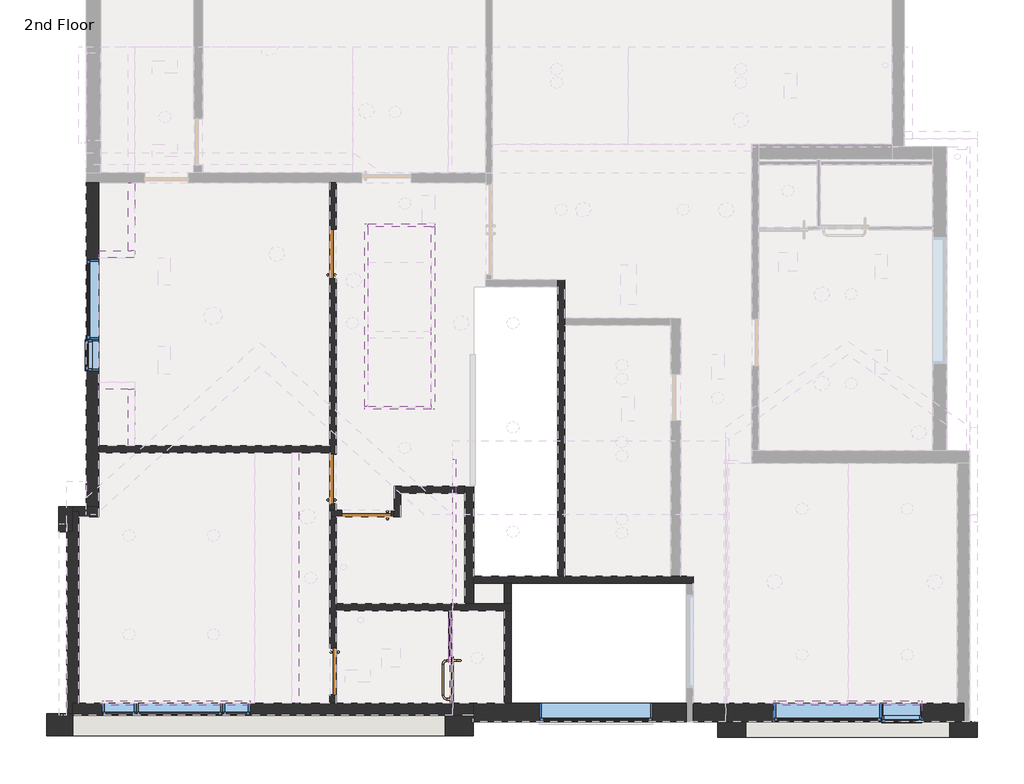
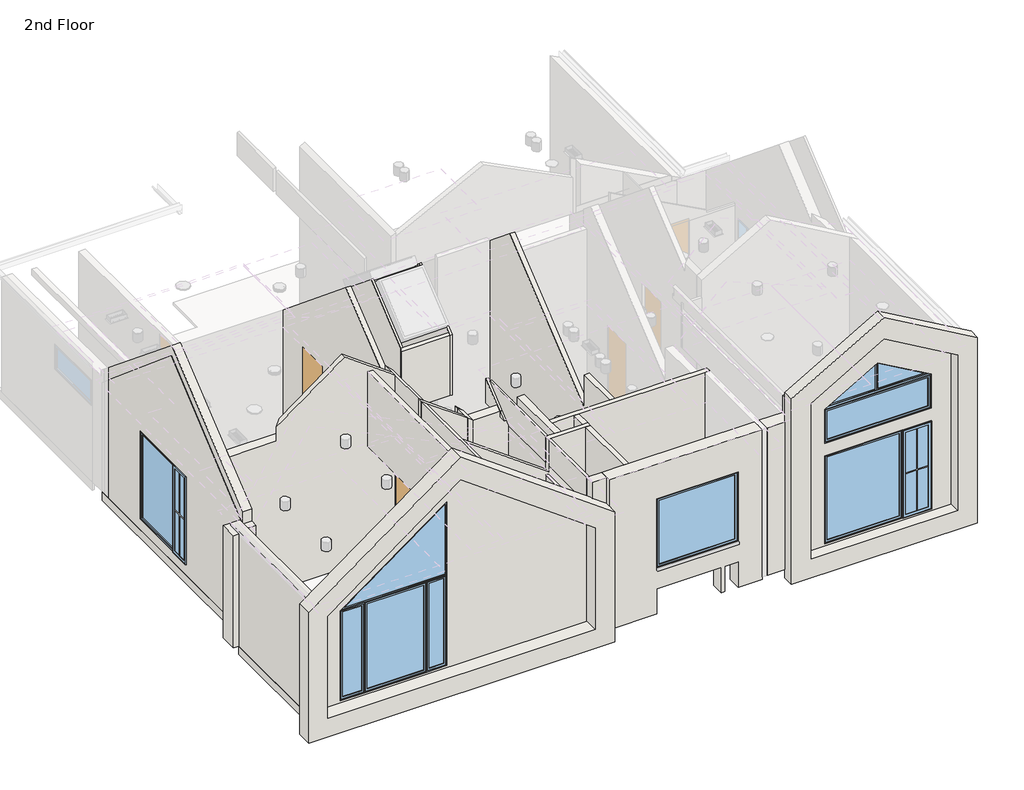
# One storey, part 1 of 6: 37 walls, 12 windows, 10 doors.
"""IFC4 building model written with IfcOpenShell, lengths in millimetres."""

from ifc_helpers import new_model, si_unit, frame, origin, place, context, project, spatial, polyline, outline, extrude, faceted_brep, transform, mapped, element, save
from components import door_1181abbb, door_c8a44f2a, door_70c034fc, door_ec2dc254, door_1882726e, door_11404014, default_1_2d5b841e, default_1_da3bdc25, default_1_ae3d604a, default_1_a06c236a, default_1_fb89efd3, default_1_84ce0bf7, default_1_c9a6c9ce, default_1_7f2328a8, default_1_1f2e066e, triangle_window_default_1_e67b248f, triangle_window_default_1_643964ed, triangle_window_default_1_2b364ab3

model = new_model("IFC4")

# Units and contexts
model_context = context("Model", 3, world=origin())
ifc_project = project(units=[si_unit("LENGTHUNIT", "METRE", prefix="MILLI")], contexts=[model_context])

# Site, building, storey
site = spatial("IfcSite", under=ifc_project)
building = spatial("IfcBuilding", under=site)
storey = spatial("IfcBuildingStorey", under=building, Name="2nd Floor", Elevation=3048.0)

# Doors
placement = place(None, origin())
door_shape = door_1181abbb(model_context)
element("IfcDoor", 1, ObjectType="Planitar - Swap_Flush Panel : Planitar - Swap_Flush Panel", at=placement, inside=storey, context=model_context, shape_type="MappedRepresentation", body=[
    mapped(door_shape, transform((11560.9549773, 3192.7909405, 3048.0), x_axis=(0.0, 1.0, 0.0), y_axis=(-1.0, 0.0, 0.0), z_axis=(0.0, 0.0, 1.0))),
])
element("IfcDoor", 2, ObjectType="Planitar - Swap_Flush Panel : Planitar - Swap_Flush Panel", at=placement, inside=storey, context=model_context, shape_type="MappedRepresentation", body=[
    mapped(door_shape, transform((12138.9173773, 2602.2409405, 3048.0), x_axis=(-1.0, 0.0, 0.0), y_axis=(0.0, -1.0, 0.0), z_axis=(0.0, 0.0, 1.0))),
])
element("IfcDoor", 3, ObjectType="Planitar - Swap_Flush Panel : Planitar - Swap_Flush Panel", at=placement, inside=storey, context=model_context, shape_type="MappedRepresentation", body=[
    mapped(door_shape, transform((11560.9549773, 6894.8409405, 3048.0), x_axis=(0.0, 1.0, 0.0), y_axis=(-1.0, 0.0, 0.0), z_axis=(0.0, 0.0, 1.0))),
])
door_2_shape = door_c8a44f2a(model_context)
element("IfcDoor", 4, ObjectType="Planitar - Swap_Flush Panel : Planitar - Swap_Flush Panel", at=placement, inside=storey, context=model_context, shape_type="MappedRepresentation", body=[
    mapped(door_2_shape, transform((11611.7549773, 30.4909405, 3048.0), x_axis=(0.0, -1.0, 0.0), y_axis=(1.0, 0.0, 0.0), z_axis=(0.0, 0.0, 1.0))),
])
door_3_shape = door_70c034fc(model_context)
element("IfcDoor", 5, ObjectType="Planitar - Swap_Full Glass_Panel_D2 : Planitar - Swap_Full Glass_Panel_D2", at=placement, inside=storey, context=model_context, shape_type="MappedRepresentation", body=[
    mapped(door_3_shape, transform((13542.2517773, -109.2090595, 3048.0), x_axis=(0.0, -1.0, 0.0), y_axis=(1.0, 0.0, 0.0), z_axis=(0.0, 0.0, 1.0))),
])
door_4_shape = door_ec2dc254(model_context)
element("IfcDoor", 6, ObjectType="Planitar - Single Door_Swapper : 9'0\" x 2'6\"", at=placement, inside=storey, context=model_context, shape_type="MappedRepresentation", body=[
    mapped(door_4_shape, transform((11586.3549773, 30.4909405, 3048.0), x_axis=(0.0, -1.0, 0.0), y_axis=(1.0, 0.0, 0.0), z_axis=(0.0, 0.0, 1.0))),
])
door_5_shape = door_1882726e(model_context)
element("IfcDoor", 7, ObjectType="Planitar - Single Door_Swapper : 9'0\" x 2'6\"", at=placement, inside=storey, context=model_context, shape_type="MappedRepresentation", body=[
    mapped(door_5_shape, transform((13516.8517773, -109.2090595, 3048.0), x_axis=(0.0, -1.0, 0.0), y_axis=(1.0, 0.0, 0.0), z_axis=(0.0, 0.0, 1.0))),
])
door_6_shape = door_11404014(model_context)
element("IfcDoor", 8, ObjectType="Planitar - Single Door_Swapper : 9'0\" x 2'8\"", at=placement, inside=storey, context=model_context, shape_type="MappedRepresentation", body=[
    mapped(door_6_shape, transform((11586.3549773, 3192.7909405, 3048.0), x_axis=(0.0, 1.0, 0.0), y_axis=(-1.0, 0.0, 0.0), z_axis=(0.0, 0.0, 1.0))),
])
element("IfcDoor", 9, ObjectType="Planitar - Single Door_Swapper : 9'0\" x 2'8\"", at=placement, inside=storey, context=model_context, shape_type="MappedRepresentation", body=[
    mapped(door_6_shape, transform((12138.9173773, 2627.6409405, 3048.0), x_axis=(-1.0, 0.0, 0.0), y_axis=(0.0, -1.0, 0.0), z_axis=(0.0, 0.0, 1.0))),
])
element("IfcDoor", 10, ObjectType="Planitar - Single Door_Swapper : 9'0\" x 2'8\"", at=placement, inside=storey, context=model_context, shape_type="MappedRepresentation", body=[
    mapped(door_6_shape, transform((11586.3549773, 6894.8409405, 3048.0), x_axis=(0.0, 1.0, 0.0), y_axis=(-1.0, 0.0, 0.0), z_axis=(0.0, 0.0, 1.0))),
])

# Walls
element("IfcWall", 11, ObjectType="Planitar - Generic 8\"", at=placement, inside=storey, context=model_context, shape_type="Brep", body=[
    faceted_brep([(7306.6871773, -693.4090595, 3048.0), (13891.5017773, -693.4090595, 3048.0), (13891.5017773, -693.4090595, 6000.6000346), (13891.5017773, -693.4090595, 6629.4), (13555.1550523, -693.4090595, 6629.4), (13555.1550523, -693.4090595, 6245.0111527), (13555.1550523, -693.4090595, 5835.65), (10380.1162773, -693.4090595, 8163.6847486), (7306.6871773, -693.4090595, 5910.1462022), (7306.6871773, -693.4090595, 5768.9000173), (7306.6871773, -693.4090595, 3302.0), (10227.7453773, -693.4090595, 3352.8), (7789.3453773, -693.4090595, 3352.8), (7789.3453773, -693.4090595, 5537.2), (10227.7453773, -693.4090595, 7325.1088519), (13891.5017773, -490.2090595, 3048.0), (11643.5049773, -490.2090595, 3048.0), (11529.2049773, -490.2090595, 3048.0), (7408.2871773, -490.2090595, 3048.0), (7306.6871773, -490.2090595, 3048.0), (7306.6871773, -490.2090595, 5843.9364361), (7306.6871773, -490.2090595, 5910.1462022), (10380.1211148, -490.2090595, 8163.6812016), (11529.2049773, -490.2090595, 7321.1380547), (11643.5049773, -490.2090595, 7237.3298273), (13555.1550523, -490.2090595, 5835.65), (13555.1550523, -490.2090595, 5993.1313686), (13555.1550523, -490.2090595, 6629.4), (13605.9550523, -490.2090595, 6629.4), (13891.5017773, -490.2090595, 6629.4), (7789.3453773, -490.2090595, 5537.2), (7789.3453773, -490.2090595, 3352.8), (10227.7453773, -490.2090595, 3352.8), (10227.7453773, -490.2090595, 7325.1088519), (7306.6871773, -668.0090595, 3048.0), (13891.5017773, -668.0090595, 3048.0), (13555.1550523, -668.0090595, 5835.65), (7306.6871773, -668.0090595, 5910.1462022), (10380.116882, -668.0090595, 8163.678098)], [[[0, 1, 2, 3, 4, 5, 6, 7, 8, 9, 10], [11, 12, 13, 14]], [[15, 16, 17, 18, 19, 20, 21, 22, 23, 24, 25, 26, 27, 28, 29], [30, 31, 32, 33]], [[1, 0, 34, 19, 18, 17, 16, 15, 35]], [[3, 2, 1, 35, 15, 29]], [[12, 31, 30, 13]], [[31, 12, 11, 32]], [[32, 11, 14, 33]], [[33, 14, 13, 30]], [[27, 26, 25, 36, 6, 5, 4]], [[21, 37, 8, 7, 38, 22]], [[6, 36, 25, 24, 23, 22, 38, 7]], [[4, 3, 29, 28, 27]], [[8, 37, 21, 20, 19, 34, 0, 10, 9]]]),
])
element("IfcWall", 12, ObjectType="Planitar - Generic 6\"", at=placement, inside=storey, context=model_context, shape_type="Brep", body=[
    faceted_brep([(13904.0081773, 1141.7409405, 3048.0), (13904.0081773, 1484.6409405, 3048.0), (13904.0081773, 1598.9409405, 3048.0), (13904.0081773, 3078.4909405, 3048.0), (13904.0081773, 3078.4909405, 6221.3609903), (13904.0081773, 2608.5909405, 5835.65), (13904.0081773, 2608.5909405, 6629.4), (13904.0081773, 1598.9409405, 6629.4), (13904.0081773, 1484.6409405, 6629.4), (13904.0081773, 1141.7409405, 6629.4), (13751.6081773, 1141.7409405, 3048.0), (13751.6081773, 1141.7409405, 6629.4), (13751.6081773, 2608.5909405, 6629.4), (13751.6081773, 2608.5909405, 5835.65), (13751.6081773, 2964.1909405, 6127.539398), (13751.6081773, 3078.4909405, 6221.3609903), (13751.6081773, 3078.4909405, 3048.0), (13751.6081773, 2964.1909405, 3048.0)], [[[0, 1, 2, 3, 4, 5, 6, 7, 8, 9]], [[10, 11, 12, 13, 14, 15, 16, 17]], [[3, 2, 1, 0, 10, 17, 16]], [[4, 3, 16, 15]], [[0, 9, 11, 10]], [[12, 6, 5, 13]], [[5, 4, 15, 14, 13]], [[9, 8, 7, 6, 12, 11]]]),
])
element("IfcWall", 13, ObjectType="Planitar - Generic 4 1/2\"", at=placement, inside=storey, context=model_context, shape_type="Brep", body=[
    faceted_brep([(13904.0081773, 1484.6409405, 3048.0), (14399.5017773, 1484.6409405, 3048.0), (14513.8017773, 1484.6409405, 3048.0), (17396.7017773, 1484.6409405, 3048.0), (17511.0017773, 1484.6409405, 3048.0), (17511.0017773, 1484.6409405, 6629.4), (17396.7017773, 1484.6409405, 6629.4), (14513.8017773, 1484.6409405, 6629.4), (14399.5017773, 1484.6409405, 6629.4), (13904.0081773, 1484.6409405, 6629.4), (13904.0081773, 1598.9409405, 3048.0), (13904.0081773, 1598.9409405, 6629.4), (15282.0549773, 1598.9409405, 6629.4), (15396.3549773, 1598.9409405, 6629.4), (17142.6049773, 1598.9409405, 6629.4), (17307.7049773, 1598.9409405, 6629.4), (17511.0017773, 1598.9409405, 6629.4), (17511.0017773, 1598.9409405, 3048.0), (17307.7049773, 1598.9409405, 3048.0), (17142.6049773, 1598.9409405, 3048.0)], [[[0, 1, 2, 3, 4, 5, 6, 7, 8, 9]], [[10, 11, 12, 13, 14, 15, 16, 17, 18, 19]], [[4, 3, 2, 1, 0, 10, 19, 18, 17]], [[5, 4, 17, 16]], [[0, 9, 11, 10]], [[9, 8, 7, 6, 5, 16, 15, 14, 13, 12, 11]]]),
])
element("IfcWall", 14, ObjectType="Planitar - Generic 4 1/2\"", at=placement, inside=storey, context=model_context, shape_type="Brep", body=[
    faceted_brep([(15282.0549773, 2608.5909405, 6629.4), (15282.0549773, 2608.5909405, 5835.65), (15282.0549773, 5565.4864039, 8262.7772128), (15282.0549773, 6469.3909405, 7521.2190287), (15282.0549773, 6469.3909405, 3048.0), (15282.0549773, 6469.3909405, 2997.2), (15282.0549773, 6469.3909405, 2807.5), (15282.0549773, 6469.3909405, 2755.9), (15282.0549773, 1598.9409405, 2755.9), (15282.0549773, 1598.9409405, 6629.4), (15396.3549773, 2608.5909405, 5835.65), (15396.3549773, 2608.5909405, 6629.4), (15396.3549773, 1598.9409405, 6629.4), (15396.3549773, 1598.9409405, 2755.9), (15396.3549773, 6469.3909405, 2755.9), (15396.3549773, 6469.3909405, 7521.2190287), (15396.3549773, 5565.4864039, 8262.7772128)], [[[0, 1, 2, 3, 4, 5, 6, 7, 8, 9]], [[10, 11, 12, 13, 14, 15, 16]], [[3, 15, 14, 7, 6, 5, 4]], [[12, 9, 8, 13]], [[8, 7, 14, 13]], [[11, 10, 1, 0]], [[9, 12, 11, 0]], [[1, 10, 16, 2]], [[15, 3, 2, 16]]]),
])
element("IfcWall", 15, ObjectType="Planitar - Generic 4 1/2\"", at=placement, inside=storey, context=model_context, shape_type="Brep", body=[
    faceted_brep([(13751.6081773, 3078.4909405, 3048.0), (12589.7673773, 3078.4909405, 3048.0), (12589.7673773, 3078.4909405, 6221.3609903), (13751.6081773, 3078.4909405, 6221.3609903), (13751.6081773, 2964.1909405, 3048.0), (13751.6081773, 2964.1909405, 6127.539398), (12704.0673773, 2964.1909405, 6127.539398), (12691.4986514, 2964.1909405, 6127.539398), (12691.4986514, 2964.1909405, 6468.9090733), (12589.7673773, 2964.1909405, 6543.5015296), (12589.7673773, 2964.1909405, 3048.0), (12704.0673773, 2964.1909405, 3048.0), (12589.7673773, 3055.6789729, 6543.5015296), (12589.7673773, 3055.6789729, 6202.6360986)], [[[0, 1, 2, 3]], [[4, 5, 6, 7, 8, 9, 10, 11]], [[1, 0, 4, 11, 10]], [[2, 1, 10, 9, 12, 13]], [[0, 3, 5, 4]], [[7, 13, 12, 8]], [[12, 9, 8]], [[3, 2, 13, 7, 6, 5]]]),
])
element("IfcWall", 16, ObjectType="Planitar - Generic 4 1/2\"", at=placement, inside=storey, context=model_context, shape_type="Brep", body=[
    faceted_brep([(12589.7673773, 2964.1909405, 3048.0), (12589.7673773, 2684.7909405, 3048.0), (12589.7673773, 2570.4909405, 3048.0), (12589.7673773, 2570.4909405, 6543.5015296), (12589.7673773, 2684.7909405, 6543.5015296), (12589.7673773, 2964.1909405, 6543.5015296), (12704.0673773, 2964.1909405, 3048.0), (12704.0673773, 2964.1909405, 6127.539398), (12704.0673773, 2952.8877497, 6118.2613284), (12704.0673773, 2952.8877497, 6459.6933021), (12704.0673773, 2570.4909405, 6459.6933021), (12704.0673773, 2570.4909405, 3048.0), (12691.4986514, 2964.1909405, 6468.9090733), (12691.4986514, 2964.1909405, 6127.539398)], [[[0, 1, 2, 3, 4, 5]], [[6, 7, 8, 9, 10, 11]], [[2, 1, 0, 6, 11]], [[0, 5, 12, 13, 7, 6]], [[3, 2, 11, 10]], [[5, 4, 3, 10, 9, 12]], [[8, 13, 12, 9]], [[8, 7, 13]]]),
])
element("IfcWall", 17, ObjectType="Planitar - Generic 4 1/2\"", at=placement, inside=storey, context=model_context, shape_type="Brep", body=[
    faceted_brep([(12589.7673773, 2684.7909405, 6543.5015296), (12589.7673773, 2684.7909405, 3048.0), (12545.3173773, 2684.7909405, 3048.0), (12545.3173773, 2684.7909405, 5791.2), (11732.5173773, 2684.7909405, 5791.2), (11732.5173773, 2684.7909405, 3048.0), (11643.5049773, 2684.7909405, 3048.0), (11529.2049773, 2684.7909405, 3048.0), (11529.2049773, 2684.7909405, 7321.1380547), (11643.5049773, 2684.7909405, 7237.3298273), (12589.7673773, 2570.4909405, 3048.0), (12589.7673773, 2570.4909405, 6543.5015296), (11643.5049773, 2570.4909405, 7237.3298273), (11529.2049773, 2570.4909405, 7321.1380547), (11529.2049773, 2570.4909405, 3048.0), (11643.5049773, 2570.4909405, 3048.0), (11732.5173773, 2570.4909405, 3048.0), (11732.5173773, 2570.4909405, 5791.2), (12545.3173773, 2570.4909405, 5791.2), (12545.3173773, 2570.4909405, 3048.0)], [[[0, 1, 2, 3, 4, 5, 6, 7, 8, 9]], [[10, 11, 12, 13, 14, 15, 16, 17, 18, 19]], [[1, 10, 19, 2]], [[14, 7, 6, 5, 16, 15]], [[1, 0, 11, 10]], [[8, 7, 14, 13]], [[0, 9, 8, 13, 12, 11]], [[4, 17, 16, 5]], [[17, 4, 3, 18]], [[18, 3, 2, 19]]]),
])
element("IfcWall", 18, ObjectType="Planitar - Generic 4 1/2\"", at=placement, inside=storey, context=model_context, shape_type="Brep", body=[
    faceted_brep([(11643.5049773, 2684.7909405, 7237.3298273), (11643.5049773, 2684.7909405, 3048.0), (11643.5049773, 2786.3909405, 3048.0), (11643.5049773, 2786.3909405, 5791.2), (11643.5049773, 3599.1909405, 5791.2), (11643.5049773, 3599.1909405, 3048.0), (11643.5049773, 6488.4409405, 3048.0), (11643.5049773, 6488.4409405, 5791.2), (11643.5049773, 7301.2409405, 5791.2), (11643.5049773, 7301.2409405, 3048.0), (11643.5049773, 8069.5909405, 3048.0), (11643.5049773, 8069.5909405, 6208.4239733), (11643.5049773, 5565.4864039, 8262.7772128), (11643.5049773, 3906.6629587, 6901.1546682), (11643.5049773, 3906.6629587, 7237.3298273), (11529.2049773, 2684.7909405, 3048.0), (11529.2049773, 2684.7909405, 7321.1380547), (11529.2049773, 3624.5909405, 7321.1380547), (11529.2049773, 3738.8909405, 7321.1380547), (11529.2049773, 4009.4541819, 7321.1380547), (11529.2049773, 4009.4541819, 6985.5294383), (11529.2049773, 5565.4864039, 8262.7772128), (11529.2049773, 8069.5909405, 6208.4239733), (11529.2049773, 8069.5909405, 3048.0), (11529.2049773, 7301.2409405, 3048.0), (11529.2049773, 7301.2409405, 5791.2), (11529.2049773, 6488.4409405, 5791.2), (11529.2049773, 6488.4409405, 3048.0), (11529.2049773, 3738.8909405, 3048.0), (11529.2049773, 3624.5909405, 3048.0), (11529.2049773, 3599.1909405, 3048.0), (11529.2049773, 3599.1909405, 5791.2), (11529.2049773, 2786.3909405, 5791.2), (11529.2049773, 2786.3909405, 3048.0)], [[[0, 1, 2, 3, 4, 5, 6, 7, 8, 9, 10, 11, 12, 13, 14]], [[15, 16, 17, 18, 19, 20, 21, 22, 23, 24, 25, 26, 27, 28, 29, 30, 31, 32, 33]], [[1, 15, 33, 2]], [[23, 10, 9, 24]], [[5, 30, 29, 28, 27, 6]], [[1, 0, 16, 15]], [[11, 10, 23, 22]], [[13, 20, 19, 14]], [[14, 19, 18, 17, 16, 0]], [[20, 13, 12, 21]], [[11, 22, 21, 12]], [[4, 31, 30, 5]], [[31, 4, 3, 32]], [[32, 3, 2, 33]], [[8, 25, 24, 9]], [[25, 8, 7, 26]], [[26, 7, 6, 27]]]),
])
element("IfcWall", 19, ObjectType="Planitar - Generic 4 1/2\"", at=placement, inside=storey, context=model_context, shape_type="Brep", body=[
    faceted_brep([(11529.2049773, 2570.4909405, 7321.1380547), (11529.2049773, 2570.4909405, 3048.0), (11529.2049773, 411.4909405, 3048.0), (11529.2049773, 411.4909405, 5791.2), (11529.2049773, -350.5090595, 5791.2), (11529.2049773, -350.5090595, 3048.0), (11529.2049773, -490.2090595, 3048.0), (11529.2049773, -490.2090595, 7321.1380547), (11643.5049773, 2570.4909405, 3048.0), (11643.5049773, 2570.4909405, 7237.3298273), (11643.5049773, 1141.7409405, 7237.3298273), (11643.5049773, 1027.4409405, 7237.3298273), (11643.5049773, -490.2090595, 7237.3298273), (11643.5049773, -490.2090595, 3048.0), (11643.5049773, -350.5090595, 3048.0), (11643.5049773, -350.5090595, 5791.2), (11643.5049773, 411.4909405, 5791.2), (11643.5049773, 411.4909405, 3048.0), (11643.5049773, 1027.4409405, 3048.0), (11643.5049773, 1141.7409405, 3048.0)], [[[0, 1, 2, 3, 4, 5, 6, 7]], [[8, 9, 10, 11, 12, 13, 14, 15, 16, 17, 18, 19]], [[1, 8, 19, 18, 17, 2]], [[13, 6, 5, 14]], [[1, 0, 9, 8]], [[7, 6, 13, 12]], [[0, 7, 12, 11, 10, 9]], [[4, 15, 14, 5]], [[15, 4, 3, 16]], [[16, 3, 2, 17]]]),
])
element("IfcWall", 20, ObjectType="Planitar - Generic 4 1/2\"", at=placement, inside=storey, context=model_context, shape_type="Brep", body=[
    faceted_brep([(11643.5049773, 1027.4409405, 3048.0), (13491.4517773, 1027.4409405, 3048.0), (13542.2517773, 1027.4409405, 3048.0), (14399.5017773, 1027.4409405, 3048.0), (14513.8017773, 1027.4409405, 3048.0), (14513.8017773, 1027.4409405, 6629.4), (14399.5017773, 1027.4409405, 6629.4), (13605.9550523, 1027.4409405, 6629.4), (13555.1550523, 1027.4409405, 6629.4), (13555.1550523, 1027.4409405, 5993.1313686), (13555.1550523, 1027.4409405, 5835.65), (11643.5049773, 1027.4409405, 7237.3298273), (11643.5049773, 1141.7409405, 3048.0), (11643.5049773, 1141.7409405, 7237.3298273), (13555.1550523, 1141.7409405, 5835.65), (13555.1550523, 1141.7409405, 5993.1313686), (13555.1550523, 1141.7409405, 6629.4), (13605.9550523, 1141.7409405, 6629.4), (13751.6081773, 1141.7409405, 6629.4), (13904.0081773, 1141.7409405, 6629.4), (14399.5017773, 1141.7409405, 6629.4), (14513.8017773, 1141.7409405, 6629.4), (14513.8017773, 1141.7409405, 3048.0), (14399.5017773, 1141.7409405, 3048.0), (13904.0081773, 1141.7409405, 3048.0), (13751.6081773, 1141.7409405, 3048.0)], [[[0, 1, 2, 3, 4, 5, 6, 7, 8, 9, 10, 11]], [[12, 13, 14, 15, 16, 17, 18, 19, 20, 21, 22, 23, 24, 25]], [[4, 3, 2, 1, 0, 12, 25, 24, 23, 22]], [[0, 11, 13, 12]], [[5, 4, 22, 21]], [[8, 7, 6, 5, 21, 20, 19, 18, 17, 16]], [[8, 16, 15, 14, 10, 9]], [[11, 10, 14, 13]]]),
])
element("IfcWall", 21, ObjectType="Planitar - Generic 4 1/2\"", at=placement, inside=storey, context=model_context, shape_type="SweptSolid", body=[
    extrude(outline(polyline([(14513.8017773, 1484.6409405), (14513.8017773, 1141.7409405), (14399.5017773, 1141.7409405), (14399.5017773, 1484.6409405), (14513.8017773, 1484.6409405)])), frame((0.0, 0.0, 3048.0), z_axis=(0.0, 0.0, 1.0), x_axis=(1.0, 0.0, 0.0)), (0.0, 0.0, 1.0), 3581.4),
])
element("IfcWall", 22, ObjectType="Planitar - Generic 4 1/2\"", at=placement, inside=storey, context=model_context, shape_type="SweptSolid", body=[
    extrude(outline(polyline([(14399.5017773, -490.2090595), (14399.5017773, 1027.4409405), (14513.8017773, 1027.4409405), (14513.8017773, -490.2090595), (14399.5017773, -490.2090595)])), frame((0.0, 0.0, 3048.0), z_axis=(0.0, 0.0, 1.0), x_axis=(1.0, 0.0, 0.0)), (0.0, 0.0, 1.0), 3581.4),
])
element("IfcWall", 23, ObjectType="Planitar - Generic 4 1/2\"", at=placement, inside=storey, context=model_context, shape_type="Brep", body=[
    faceted_brep([(11529.2049773, 3738.8909405, 3048.0), (7731.9049773, 3738.8909405, 3048.0), (7731.9049773, 3738.8909405, 6763.4413009), (8939.810198, 3738.8909405, 6763.4413009), (8939.810198, 3738.8909405, 7107.6015438), (10380.1211148, 3738.8909405, 8163.6812016), (11529.2049773, 3738.8909405, 7321.1380547), (11529.2049773, 3624.5909405, 3048.0), (11529.2049773, 3624.5909405, 7321.1380547), (10380.1211148, 3624.5909405, 8163.6812016), (8812.7128682, 3624.5909405, 7014.4099259), (8812.7128682, 3624.5909405, 6669.6197087), (7731.9049773, 3624.5909405, 6669.6197087), (7731.9049773, 3624.5909405, 3048.0)], [[[0, 1, 2, 3, 4, 5, 6]], [[7, 8, 9, 10, 11, 12, 13]], [[1, 0, 7, 13]], [[2, 1, 13, 12]], [[0, 6, 8, 7]], [[3, 11, 10, 4]], [[3, 2, 12, 11]], [[6, 5, 9, 8]], [[5, 4, 10, 9]]]),
])
element("IfcWall", 24, ObjectType="Planitar - Generic 6 1/2\"", at=placement, inside=storey, context=model_context, shape_type="Brep", body=[
    faceted_brep([(7731.9049773, 2735.5909405, 3048.0), (7528.7049773, 2735.5909405, 3048.0), (7306.6871773, 2735.5909405, 3048.0), (7306.6871773, 2735.5909405, 5649.1901862), (7731.9049773, 2735.5909405, 5649.1901862), (7731.9049773, 2570.4909405, 3048.0), (7731.9049773, 2570.4909405, 5649.1901862), (7408.2871773, 2570.4909405, 5649.1901862), (7408.2871773, 2570.4909405, 3048.0), (7408.2871773, 2653.0409405, 3048.0), (7306.6871773, 2653.0409405, 3048.0), (7306.6871773, 2653.0409405, 5649.1901862), (7408.2871773, 2653.0409405, 5649.1901862)], [[[0, 1, 2, 3, 4]], [[5, 6, 7, 8]], [[0, 4, 6, 5]], [[2, 1, 0, 5, 8, 9, 10]], [[3, 2, 10, 11]], [[4, 3, 11, 12, 7, 6]], [[12, 9, 8, 7]], [[9, 12, 11, 10]]]),
])
element("IfcWall", 25, ObjectType="Planitar - Generic 8\"", at=placement, inside=storey, context=model_context, shape_type="Brep", body=[
    faceted_brep([(7205.0871773, -668.0090595, 5843.9364361), (7205.0871773, 2653.0409405, 5843.9364361), (7205.0871773, 2653.0409405, 5770.6137562), (7205.0871773, 2329.1909405, 5770.6137562), (7205.0871773, 2329.1909405, 3048.0), (7205.0871773, -668.0090595, 3048.0), (7408.2871773, -490.2090595, 3048.0), (7408.2871773, 2570.4909405, 3048.0), (7408.2871773, 2653.0409405, 3048.0), (7408.2871773, 2653.0409405, 5649.1901862), (7408.2871773, 2653.0409405, 5843.9364361), (7408.2871773, -490.2090595, 5843.9364361), (7306.6871773, -490.2090595, 3048.0), (7306.6871773, -668.0090595, 3048.0), (7255.8871773, -668.0090595, 3048.0), (7255.8871773, 2329.1909405, 3048.0), (7306.6871773, 2329.1909405, 3048.0), (7306.6871773, 2653.0409405, 3048.0), (7306.6871773, -668.0090595, 5843.9364361), (7306.6871773, -490.2090595, 5843.9364361), (7306.6871773, 2653.0409405, 5649.1901862), (7306.6871773, 2653.0409405, 5770.6137562), (7306.6871773, 2329.1909405, 5770.6137562), (7306.6871773, -668.0090595, 3302.0), (7306.6871773, -668.0090595, 5768.9000173)], [[[0, 1, 2, 3, 4, 5]], [[6, 7, 8, 9, 10, 11]], [[8, 7, 6, 12, 13, 14, 5, 4, 15, 16, 17]], [[1, 0, 18, 19, 11, 10]], [[10, 9, 8, 17, 20, 21, 2, 1]], [[22, 16, 15, 4, 3]], [[22, 3, 2, 21]], [[16, 22, 21, 20, 17]], [[5, 14, 13, 23, 24, 18, 0]], [[13, 12, 19, 18, 24, 23]], [[12, 6, 11, 19]]]),
])
element("IfcWall", 26, ObjectType="Planitar - Generic 2\"", at=placement, inside=storey, context=model_context, shape_type="Brep", body=[
    faceted_brep([(13491.4517773, 1027.4409405, 3098.8), (13491.4517773, 1027.4409405, 3048.0), (13491.4517773, 271.7909405, 3048.0), (13491.4517773, 271.7909405, 3098.8), (13542.2517773, 1027.4409405, 3048.0), (13542.2517773, 1027.4409405, 3098.8), (13542.2517773, 271.7909405, 3098.8), (13542.2517773, 271.7909405, 3048.0), (13529.5517773, 1027.4409405, 3098.8), (13504.1517773, 1027.4409405, 3098.8), (13504.1517773, 271.7909405, 3098.8), (13529.5517773, 271.7909405, 3098.8)], [[[0, 1, 2, 3]], [[4, 5, 6, 7]], [[1, 4, 7, 2]], [[5, 8, 9, 0, 3, 10, 11, 6]], [[1, 0, 9, 8, 5, 4]], [[3, 2, 7, 6, 11, 10]]]),
])
element("IfcWall", 27, ObjectType="Planitar - Curtain wall (Curved)", at=placement, inside=storey, context=model_context, shape_type="SweptSolid", body=[
    extrude(outline(polyline([(13504.1517773, 1027.4409405), (13529.5517773, 1027.4409405), (13529.5517773, 271.7909405), (13504.1517773, 271.7909405), (13504.1517773, 1027.4409405)])), frame((0.0, 0.0, 3098.8), z_axis=(0.0, 0.0, 1.0), x_axis=(1.0, 0.0, 0.0)), (0.0, 0.0, 1.0), 2336.8),
])
element("IfcWall", 28, ObjectType="Planitar - Generic 1' - 0\"", at=placement, inside=storey, context=model_context, shape_type="Brep", body=[
    faceted_brep([(17511.0017773, -795.0090595, 3048.0), (21956.0017773, -795.0090595, 3048.0), (21956.0017773, -795.0090595, 7094.9091145), (20051.0078773, -795.0090595, 8194.7578555), (18044.4017773, -795.0090595, 7036.2503272), (18044.4017773, -795.0090595, 6629.4), (17511.0017773, -795.0090595, 6629.4), (18831.8139773, -795.0090595, 3352.8), (18831.8139773, -795.0090595, 5486.4), (21270.2017773, -795.0090595, 5486.4), (21270.2017773, -795.0090595, 3352.8), (20051.0078773, -795.0090595, 7315.2), (21270.2078773, -795.0090595, 6611.2945518), (21270.2017773, -795.0090595, 5791.2), (18831.8139773, -795.0090595, 5791.2), (18831.8139773, -795.0090595, 6611.2945518), (21956.0017773, -490.2090595, 3048.0), (21854.4017773, -490.2090595, 3048.0), (17511.0017773, -490.2090595, 3048.0), (17511.0017773, -490.2090595, 6629.4), (18044.4017773, -490.2090595, 6629.4), (18044.4017773, -490.2090595, 6756.4), (18044.4017773, -490.2090595, 7036.2503272), (18095.2017773, -490.2090595, 7065.5797209), (20051.0017773, -490.2090595, 8194.7613773), (21854.4017773, -490.2090595, 7153.5679019), (21956.0017773, -490.2090595, 7094.9091145), (18831.8139773, -490.2090595, 5486.4), (18831.8139773, -490.2090595, 3352.8), (21270.2017773, -490.2090595, 3352.8), (21270.2017773, -490.2090595, 5486.4), (21270.2078773, -490.2090595, 6611.2945518), (20051.0078773, -490.2090595, 7315.2), (18831.8078773, -490.2090595, 6611.2945518), (18831.8139773, -490.2090595, 5791.2), (21270.2017773, -490.2090595, 5791.2)], [[[0, 1, 2, 3, 4, 5, 6], [7, 8, 9, 10], [11, 12, 13, 14, 15]], [[16, 17, 18, 19, 20, 21, 22, 23, 24, 25, 26], [27, 28, 29, 30], [31, 32, 33, 34, 35]], [[1, 0, 18, 17, 16]], [[2, 1, 16, 26]], [[28, 7, 10, 29]], [[28, 27, 8, 7]], [[8, 27, 30, 9]], [[9, 30, 29, 10]], [[0, 6, 19, 18]], [[12, 11, 32, 31]], [[11, 15, 33, 32]], [[35, 13, 12, 31]], [[14, 34, 33, 15]], [[13, 35, 34, 14]], [[4, 3, 24, 23, 22]], [[2, 26, 25, 24, 3]], [[4, 22, 21, 20, 5]], [[6, 5, 20, 19]]]),
])
element("IfcWall", 29, ObjectType="Planitar - Generic 4 1/2\"", at=placement, inside=storey, context=model_context, shape_type="SweptSolid", body=[
    extrude(outline(polyline([(10907.0017773, -490.2090595), (10907.0017773, 3624.5909405), (11021.3017773, 3624.5909405), (11021.3017773, -490.2090595), (10907.0017773, -490.2090595)])), frame((0.0, 0.0, 5803.9), z_axis=(0.0, 0.0, 1.0), x_axis=(1.0, 0.0, 0.0)), (0.0, 0.0, 1.0), 1816.1),
])
element("IfcWall", 30, ObjectType="Planitar - Generic 4 1/2\"", at=placement, inside=storey, context=model_context, shape_type="Brep", body=[
    faceted_brep([(7731.9049773, 4672.3409405, 5651.5), (8214.6017773, 4672.3409405, 5651.5), (8328.9017773, 4672.3409405, 5651.5), (8328.9017773, 4672.3409405, 5791.2), (8214.6017773, 4672.3409405, 5791.2), (7731.9049773, 4672.3409405, 5791.2), (7731.9049773, 4786.6409405, 5651.5), (7731.9049773, 4786.6409405, 5791.2), (8328.9017773, 4786.6409405, 5791.2), (8328.9017773, 4786.6409405, 5651.5)], [[[0, 1, 2, 3, 4, 5]], [[6, 7, 8, 9]], [[2, 1, 0, 6, 9]], [[5, 4, 3, 8, 7]], [[0, 5, 7, 6]], [[3, 2, 9, 8]]]),
])
element("IfcWall", 31, ObjectType="Planitar - Generic 4 1/2\"", at=placement, inside=storey, context=model_context, shape_type="SweptSolid", body=[
    extrude(outline(polyline([(8214.6017773, 3738.8909405), (8214.6017773, 4672.3409405), (8328.9017773, 4672.3409405), (8328.9017773, 3738.8909405), (8214.6017773, 3738.8909405)])), frame((0.0, 0.0, 5651.5), z_axis=(0.0, 0.0, 1.0), x_axis=(1.0, 0.0, 0.0)), (0.0, 0.0, 1.0), 139.7),
])
element("IfcWall", 32, ObjectType="Planitar - Generic 4 1/2\"", at=placement, inside=storey, context=model_context, shape_type="Brep", body=[
    faceted_brep([(7731.9049773, 6837.6909405, 5651.5), (8328.9017773, 6837.6909405, 5651.5), (8328.9017773, 6837.6909405, 5791.2), (7731.9049773, 6837.6909405, 5791.2), (7731.9049773, 6951.9909405, 5651.5), (7731.9049773, 6951.9909405, 5791.2), (8214.6017773, 6951.9909405, 5791.2), (8328.9017773, 6951.9909405, 5791.2), (8328.9017773, 6951.9909405, 5651.5), (8214.6017773, 6951.9909405, 5651.5)], [[[0, 1, 2, 3]], [[4, 5, 6, 7, 8, 9]], [[1, 0, 4, 9, 8]], [[3, 2, 7, 6, 5]], [[0, 3, 5, 4]], [[2, 1, 8, 7]]]),
])
element("IfcWall", 33, ObjectType="Planitar - Generic 4 1/2\"", at=placement, inside=storey, context=model_context, shape_type="SweptSolid", body=[
    extrude(outline(polyline([(8328.9017773, 8069.5909405), (8328.9017773, 6951.9909405), (8214.6017773, 6951.9909405), (8214.6017773, 8069.5909405), (8328.9017773, 8069.5909405)])), frame((0.0, 0.0, 5651.5), z_axis=(0.0, 0.0, 1.0), x_axis=(1.0, 0.0, 0.0)), (0.0, 0.0, 1.0), 139.7),
])
element("IfcWall", 34, ObjectType="Planitar - Generic 2\"", at=placement, inside=storey, context=model_context, shape_type="Brep", body=[
    faceted_brep([(13491.4517773, 1027.4409405, 5486.4), (13491.4517773, 1027.4409405, 5435.6), (13491.4517773, 271.7909405, 5435.6), (13491.4517773, 271.7909405, 5486.4), (13542.2517773, 1027.4409405, 5435.6), (13542.2517773, 1027.4409405, 5486.4), (13542.2517773, 271.7909405, 5486.4), (13542.2517773, 271.7909405, 5435.6), (13504.1517773, 1027.4409405, 5435.6), (13529.5517773, 1027.4409405, 5435.6), (13529.5517773, 271.7909405, 5435.6), (13504.1517773, 271.7909405, 5435.6)], [[[0, 1, 2, 3]], [[4, 5, 6, 7]], [[1, 8, 9, 4, 7, 10, 11, 2]], [[5, 0, 3, 6]], [[1, 0, 5, 4, 9, 8]], [[3, 2, 11, 10, 7, 6]]]),
])
element("IfcWall", 35, ObjectType="Planitar - Generic 2\"", at=placement, inside=storey, context=model_context, shape_type="SweptSolid", body=[
    extrude(outline(polyline([(13542.0533398, 1027.4409405), (13542.0533398, 170.1909405), (13491.2533398, 170.1909405), (13491.2533398, 1027.4409405), (13542.0533398, 1027.4409405)])), frame((0.0, 0.0, 5486.4), z_axis=(0.0, 0.0, 1.0), x_axis=(1.0, 0.0, 0.0)), (0.0, 0.0, 1.0), 304.8),
])
element("IfcWall", 36, ObjectType="Planitar - Generic 8\"", at=placement, inside=storey, context=model_context, shape_type="Brep", body=[
    faceted_brep([(7528.7049773, 8069.5909405, 3048.0), (7528.7049773, 2735.5909405, 3048.0), (7528.7049773, 2735.5909405, 5628.6776341), (7528.7049773, 5565.4864039, 8015.9316754), (7528.7049773, 8069.5909405, 5903.5095904), (7528.7049773, 4977.1409405, 5435.6), (7528.7049773, 4977.1409405, 3302.0), (7528.7049773, 6805.9409405, 3302.0), (7528.7049773, 6805.9409405, 5435.6), (7731.9049773, 2735.5909405, 3048.0), (7731.9049773, 3624.5909405, 3048.0), (7731.9049773, 3738.8909405, 3048.0), (7731.9049773, 8069.5909405, 3048.0), (7731.9049773, 8069.5909405, 6208.4239733), (7731.9049773, 5565.4864039, 8262.7772128), (7731.9049773, 3738.8909405, 6763.4413009), (7731.9049773, 3624.5909405, 6669.6197087), (7731.9049773, 2735.5909405, 5939.8962136), (7731.9049773, 2735.5909405, 5649.1901862), (7731.9049773, 4977.1409405, 3302.0), (7731.9049773, 4977.1409405, 5435.6), (7731.9049773, 6805.9409405, 5435.6), (7731.9049773, 6805.9409405, 3302.0), (7579.5049773, 2735.5909405, 3048.0), (7535.2871773, 8069.5909405, 5903.5095904), (7535.2871773, 8069.5909405, 6208.4239733), (7535.2871773, 2735.5909405, 5939.8962136), (7535.2871773, 2735.5909405, 5770.6137562), (7535.2871773, 2735.5909405, 5628.6776341), (7535.2871773, 5565.4864039, 8262.7772128), (7535.2871773, 5565.4864039, 8015.9316754)], [[[0, 1, 2, 3, 4], [5, 6, 7, 8]], [[9, 10, 11, 12, 13, 14, 15, 16, 17, 18], [19, 20, 21, 22]], [[1, 0, 12, 11, 10, 9, 23]], [[13, 12, 0, 4, 24, 25]], [[1, 23, 9, 18, 17, 26, 27, 28, 2]], [[5, 20, 19, 6]], [[14, 13, 25, 29]], [[17, 16, 15, 14, 29, 26]], [[20, 5, 8, 21]], [[21, 8, 7, 22]], [[6, 19, 22, 7]], [[30, 28, 27, 26, 29, 25, 24]], [[28, 30, 3, 2]], [[30, 24, 4, 3]]]),
])
element("IfcWall", 37, ObjectType="Planitar - Generic 1' - 0\"", at=placement, inside=storey, context=model_context, shape_type="Brep", body=[
    faceted_brep([(13891.5017773, -490.2090595, 2997.2), (13891.5017773, -490.2090595, 3048.0), (13891.5017773, -490.2090595, 6629.4), (14399.5017773, -490.2090595, 6629.4), (14513.8017773, -490.2090595, 6629.4), (17396.7017773, -490.2090595, 6629.4), (17396.7017773, -490.2090595, 2997.2), (16844.2517773, -490.2090595, 2997.2), (16844.2517773, -490.2090595, 3606.8), (16539.4517773, -490.2090595, 3606.8), (16539.4517773, -490.2090595, 2997.2), (16459.0569509, -490.2090595, 2997.2), (16459.0569509, -490.2090595, 3606.8), (14985.8569509, -490.2090595, 3606.8), (14985.8569509, -490.2090595, 2997.2), (16844.2517773, -490.2090595, 4114.8), (16844.2517773, -490.2090595, 5791.2), (14977.3517773, -490.2090595, 5791.2), (14977.3517773, -490.2090595, 4114.8), (13891.5017773, -795.0090595, 6629.4), (13891.5017773, -795.0090595, 2997.2), (14985.8569509, -795.0090595, 2997.2), (14985.8569509, -795.0090595, 3606.8), (16459.0569509, -795.0090595, 3606.8), (16459.0569509, -795.0090595, 2997.2), (16539.4517773, -795.0090595, 2997.2), (16539.4517773, -795.0090595, 3606.8), (16844.2517773, -795.0090595, 3606.8), (16844.2517773, -795.0090595, 2997.2), (17396.7017773, -795.0090595, 2997.2), (17396.7017773, -795.0090595, 3048.0), (17396.7017773, -795.0090595, 6629.4), (16844.2517773, -795.0090595, 4114.8), (14977.3517773, -795.0090595, 4114.8), (14977.3517773, -795.0090595, 5791.2), (16844.2517773, -795.0090595, 5791.2), (13891.5017773, -693.4090595, 6629.4), (17396.7017773, -693.4090595, 6629.4)], [[[0, 1, 2, 3, 4, 5, 6, 7, 8, 9, 10, 11, 12, 13, 14], [15, 16, 17, 18]], [[19, 20, 21, 22, 23, 24, 25, 26, 27, 28, 29, 30, 31], [32, 33, 34, 35]], [[20, 0, 14, 21]], [[6, 29, 28, 7]], [[10, 25, 24, 11]], [[2, 1, 0, 20, 19, 36]], [[6, 5, 37, 31, 30, 29]], [[16, 15, 32, 35]], [[17, 16, 35, 34]], [[18, 17, 34, 33]], [[15, 18, 33, 32]], [[27, 8, 7, 28]], [[8, 27, 26, 9]], [[9, 26, 25, 10]], [[5, 4, 3, 2, 36, 19, 31, 37]], [[13, 22, 21, 14]], [[22, 13, 12, 23]], [[23, 12, 11, 24]]]),
])
element("IfcWall", 38, ObjectType="Planitar - Generic 1' - 4\"", at=placement, inside=storey, context=model_context, shape_type="Brep", body=[
    faceted_brep([(7306.6871773, 2735.5909405, 3048.0), (7078.0871773, 2735.5909405, 3048.0), (7078.0871773, 2735.5909405, 5770.6137562), (7306.6871773, 2735.5909405, 5770.6137562), (7306.6871773, 2735.5909405, 5649.1901862), (7306.6871773, 2329.1909405, 3048.0), (7306.6871773, 2329.1909405, 5770.6137562), (7205.0871773, 2329.1909405, 5770.6137562), (7078.0871773, 2329.1909405, 5770.6137562), (7078.0871773, 2329.1909405, 3048.0), (7205.0871773, 2329.1909405, 3048.0), (7306.6871773, 2653.0409405, 3048.0), (7306.6871773, 2653.0409405, 5770.6137562)], [[[0, 1, 2, 3, 4]], [[5, 6, 7, 8, 9, 10]], [[1, 0, 11, 5, 10, 9]], [[2, 1, 9, 8]], [[3, 2, 8, 7, 6, 12]], [[0, 4, 3, 12, 6, 5, 11]]]),
])
element("IfcWall", 39, ObjectType="Planitar - Generic 10\"", at=placement, inside=storey, context=model_context, shape_type="Brep", body=[
    faceted_brep([(17917.4139773, -1049.0090595, 2844.8), (22184.6017773, -1049.0090595, 2844.8), (22184.6017773, -1049.0090595, 7338.8666598), (20051.0078773, -1049.0090595, 8570.6976723), (17917.4139773, -1049.0090595, 7338.8666598), (21727.4017773, -1049.0090595, 7074.9021167), (21727.4017773, -1049.0090595, 3302.0), (18374.6139773, -1049.0090595, 3302.0), (18374.6139773, -1049.0090595, 7074.9021167), (20051.0078773, -1049.0090595, 8042.7685861), (17917.4139773, -795.0090595, 2844.8), (17917.4139773, -795.0090595, 7338.8666598), (20051.0078773, -795.0090595, 8570.6976723), (22184.6017773, -795.0090595, 7338.8666598), (22184.6017773, -795.0090595, 2844.8), (22057.6011695, -795.0090595, 2844.8), (22006.8011695, -795.0090595, 2844.8), (21727.4017773, -795.0090595, 7074.9021167), (20051.0078773, -795.0090595, 8042.7685861), (18374.6139773, -795.0090595, 7074.9021167), (18374.6139773, -795.0090595, 3302.0), (21727.4017773, -795.0090595, 3302.0)], [[[0, 1, 2, 3, 4], [5, 6, 7, 8, 9]], [[10, 11, 12, 13, 14, 15, 16], [17, 18, 19, 20, 21]], [[1, 0, 10, 16, 15, 14]], [[2, 1, 14, 13]], [[0, 4, 11, 10]], [[6, 5, 17, 21]], [[7, 6, 21, 20]], [[8, 7, 20, 19]], [[3, 2, 13, 12]], [[4, 3, 12, 11]], [[9, 8, 19, 18]], [[5, 9, 18, 17]]]),
])
element("IfcWall", 40, ObjectType="Planitar - Generic 1' - 2\"", at=placement, inside=storey, context=model_context, shape_type="Brep", body=[
    faceted_brep([(13891.5017773, -668.0090595, 2844.8), (7255.8871773, -668.0090595, 2844.8), (7205.0871773, -668.0090595, 2844.8), (6874.9453773, -668.0090595, 2844.8), (6874.9453773, -668.0090595, 6000.6000346), (10354.6580773, -668.0090595, 8570.6976723), (13555.1550523, -668.0090595, 6245.0111527), (13555.1550523, -668.0090595, 5835.65), (10380.116882, -668.0090595, 8163.6843053), (7306.6871773, -668.0090595, 5910.1462022), (7306.6871773, -668.0090595, 5843.9364361), (7306.6871773, -668.0090595, 3048.0), (13891.5017773, -668.0090595, 3048.0), (6874.9453773, -1023.6090595, 2844.8), (13891.5017773, -1023.6090595, 2844.8), (13891.5017773, -1023.6090595, 6000.6000346), (10354.6580773, -1023.6090595, 8570.6976723), (6874.9453773, -1023.6090595, 6000.6000346), (13434.3017773, -1023.6090595, 3302.0), (7306.6871773, -1023.6090595, 3302.0), (7306.6871773, -1023.6090595, 5768.9000173), (10354.6580773, -1023.6090595, 8003.7647452), (13434.3017773, -1023.6090595, 5764.3432841), (13891.5017773, -693.4090595, 3048.0), (13891.5017773, -693.4090595, 6000.6000346), (13434.3017773, -693.4090595, 3302.0), (7306.6871773, -693.4090595, 3302.0), (13434.3017773, -693.4090595, 5764.3432841), (7306.6871773, -693.4090595, 5910.1462022), (7306.6871773, -693.4090595, 5768.9000173), (7306.6871773, -693.4090595, 3048.0), (10354.6580773, -693.4090595, 8003.7647452), (13555.1550523, -693.4090595, 6245.0111527), (10380.1211148, -693.4090595, 8163.6812016), (13555.1550523, -693.4090595, 5835.65)], [[[0, 1, 2, 3, 4, 5, 6, 7, 8, 9, 10, 11, 12]], [[13, 14, 15, 16, 17], [18, 19, 20, 21, 22]], [[3, 2, 1, 0, 14, 13]], [[15, 14, 0, 12, 23, 24]], [[4, 3, 13, 17]], [[19, 18, 25, 26]], [[18, 22, 27, 25]], [[9, 28, 29, 20, 19, 26, 30, 11, 10]], [[5, 4, 17, 16]], [[21, 20, 29, 31]], [[16, 15, 24, 32, 6, 5]], [[22, 21, 31, 27]], [[23, 30, 26, 25, 27, 31, 29, 28, 33, 34, 32, 24]], [[30, 23, 12, 11]], [[32, 34, 7, 6]], [[33, 28, 9, 8]], [[34, 33, 8, 7]]]),
])
element("IfcWall", 41, ObjectType="Planitar - Generic 2\"", at=placement, inside=storey, context=model_context, shape_type="SweptSolid", body=[
    extrude(outline(polyline([(7255.8871773, 2329.1909405), (7255.8871773, -668.0090595), (7205.0871773, -668.0090595), (7205.0871773, 2329.1909405), (7255.8871773, 2329.1909405)])), frame((0.0, 0.0, 2844.8), z_axis=(0.0, 0.0, 1.0), x_axis=(1.0, 0.0, 0.0)), (0.0, 0.0, 1.0), 203.2),
])
element("IfcWall", 42, ObjectType="Planitar - Generic 2\"", at=placement, inside=storey, context=model_context, shape_type="Brep", body=[
    faceted_brep([(7579.5049773, 2735.5909405, 2844.8), (7579.5049773, 8306.7282405, 2844.8), (7579.5049773, 8306.7282405, 3048.0), (7579.5049773, 2735.5909405, 3048.0), (7528.7049773, 2735.5909405, 2844.8), (7528.7049773, 2735.5909405, 3048.0), (7528.7049773, 8069.5909405, 3048.0), (7528.7049773, 8234.6909405, 3048.0), (7528.7049773, 8306.7282405, 3048.0), (7528.7049773, 8306.7282405, 2844.8), (7535.2871773, 8306.7282405, 3048.0)], [[[0, 1, 2, 3]], [[4, 5, 6, 7, 8, 9]], [[1, 0, 4, 9]], [[3, 2, 10, 8, 7, 6, 5]], [[0, 3, 5, 4]], [[2, 1, 9, 8, 10]]]),
])
element("IfcWall", 43, ObjectType="Planitar - Generic 2\"", at=placement, inside=storey, context=model_context, shape_type="SweptSolid", body=[
    extrude(outline(polyline([(13605.9550523, -490.2090595), (13555.1550523, -490.2090595), (13555.1550523, 1027.4409405), (13605.9550523, 1027.4409405), (13605.9550523, -490.2090595)])), frame((0.0, 0.0, 5993.1313686), z_axis=(0.0, 0.0, 1.0), x_axis=(1.0, 0.0, 0.0)), (0.0, 0.0, 1.0), 636.2686314),
    extrude(outline(polyline([(1141.7409405, 5993.1313686), (1141.7409405, 6629.4), (3375.4241725, 6629.4), (2608.5909405, 5999.9554261), (2608.5909405, 5993.1313686), (1141.7409405, 5993.1313686)])), frame((13555.1550523, 0.0, 0.0), z_axis=(1.0, 0.0, 0.0), x_axis=(0.0, 1.0, 0.0)), (0.0, 0.0, 1.0), 50.8),
    extrude(outline(polyline([(3522.9909405, 6586.2227378), (3522.9909405, 5993.1313686), (2800.4457152, 5993.1313686), (3522.9909405, 6586.2227378)])), frame((13555.1550523, 0.0, 0.0), z_axis=(1.0, 0.0, 0.0), x_axis=(0.0, 1.0, 0.0)), (0.0, 0.0, 1.0), 50.8),
])
element("IfcWall", 44, ObjectType="Planitar - Generic 2\"", at=placement, inside=storey, context=model_context, shape_type="Brep", body=[
    faceted_brep([(12106.4979371, 4342.1409405, 5803.9), (13205.6049773, 4342.1409405, 5803.9), (13205.6049773, 4342.1409405, 7258.6108155), (12106.4979371, 4342.1409405, 7258.6108155), (12106.4979371, 4392.9409405, 5803.9), (12106.4979371, 4392.9409405, 7300.3093009), (12157.2979371, 4392.9409405, 7300.3093009), (13205.6049773, 4392.9409405, 7300.3093009), (13205.6049773, 4392.9409405, 5803.9), (12157.2979371, 4392.9409405, 5803.9)], [[[0, 1, 2, 3]], [[4, 5, 6, 7, 8, 9]], [[1, 0, 4, 9, 8]], [[0, 3, 5, 4]], [[2, 1, 8, 7]], [[3, 2, 7, 6, 5]]]),
])
element("IfcWall", 45, ObjectType="Planitar - Generic 2\"", at=placement, inside=storey, context=model_context, shape_type="Brep", body=[
    faceted_brep([(12106.4979371, 7390.1409405, 5803.9), (12106.4979371, 4392.9409405, 5803.9), (12106.4979371, 4392.9409405, 7300.3093009), (12106.4979371, 5565.4864039, 8262.7772128), (12106.4979371, 7390.1409405, 6765.8409214), (12157.2979371, 7390.1409405, 5803.9), (12157.2979371, 7390.1409405, 6765.8409214), (12157.2979371, 7339.3409405, 6807.5169549), (12157.2979371, 5565.4864039, 8262.7772128), (12157.2979371, 4392.9409405, 7300.3093009), (12157.2979371, 4392.9409405, 5803.9), (12157.2979371, 7339.3409405, 5803.9)], [[[0, 1, 2, 3, 4]], [[5, 6, 7, 8, 9, 10, 11]], [[1, 0, 5, 11, 10]], [[0, 4, 6, 5]], [[2, 1, 10, 9]], [[4, 3, 8, 7, 6]], [[3, 2, 9, 8]]]),
])
element("IfcWall", 46, ObjectType="Planitar - Generic 2\"", at=placement, inside=storey, context=model_context, shape_type="Brep", body=[
    faceted_brep([(13256.4049773, 7390.1409405, 5803.9), (12157.2979371, 7390.1409405, 5803.9), (12157.2979371, 7390.1409405, 6765.8409214), (13256.4049773, 7390.1409405, 6765.8409214), (13256.4049773, 7339.3409405, 5803.9), (13256.4049773, 7339.3409405, 6807.5169549), (13205.6049773, 7339.3409405, 6807.5169549), (12157.2979371, 7339.3409405, 6807.5169549), (12157.2979371, 7339.3409405, 5803.9), (13205.6049773, 7339.3409405, 5803.9)], [[[0, 1, 2, 3]], [[4, 5, 6, 7, 8, 9]], [[1, 0, 4, 9, 8]], [[0, 3, 5, 4]], [[2, 1, 8, 7]], [[3, 2, 7, 6, 5]]]),
])
element("IfcWall", 47, ObjectType="Planitar - Generic 2\"", at=placement, inside=storey, context=model_context, shape_type="Brep", body=[
    faceted_brep([(13256.4049773, 4342.1409405, 5803.9), (13256.4049773, 7339.3409405, 5803.9), (13256.4049773, 7339.3409405, 6807.5169549), (13256.4049773, 5565.4864039, 8262.7772128), (13256.4049773, 4342.1409405, 7258.6108155), (13205.6049773, 4342.1409405, 5803.9), (13205.6049773, 4342.1409405, 7258.6108155), (13205.6049773, 4392.9409405, 7300.3093009), (13205.6049773, 5565.4864039, 8262.7772128), (13205.6049773, 7339.3409405, 6807.5169549), (13205.6049773, 7339.3409405, 5803.9), (13205.6049773, 4392.9409405, 5803.9)], [[[0, 1, 2, 3, 4]], [[5, 6, 7, 8, 9, 10, 11]], [[1, 0, 5, 11, 10]], [[0, 4, 6, 5]], [[2, 1, 10, 9]], [[4, 3, 8, 7, 6]], [[3, 2, 9, 8]]]),
])

# Windows
default_1_shape = default_1_2d5b841e(model_context)
element("IfcWindow", 48, ObjectType="Planitar-Fixed : Default 1", at=placement, inside=storey, context=model_context, shape_type="MappedRepresentation", body=[
    mapped(default_1_shape, transform((7643.3049773, 6145.5409405, 2387.6), x_axis=(0.0, 1.0, 0.0), y_axis=(-1.0, 0.0, 0.0), z_axis=(0.0, 0.0, 1.0))),
])
default_1_2_shape = default_1_da3bdc25(model_context)
element("IfcWindow", 49, ObjectType="Planitar-Casement-Single_Left : Default 1", at=placement, inside=storey, context=model_context, shape_type="MappedRepresentation", body=[
    mapped(default_1_2_shape, transform((7630.3049773, 5231.1409405, 2387.6), x_axis=(0.0, -1.0, 0.0), y_axis=(1.0, 0.0, 0.0), z_axis=(0.0, 0.0, 1.0))),
])
default_1_3_shape = default_1_ae3d604a(model_context)
element("IfcWindow", 50, ObjectType="Planitar-Fixed : Default 1", at=placement, inside=storey, context=model_context, shape_type="MappedRepresentation", body=[
    mapped(default_1_3_shape, transform((15910.8017773, -629.6090595, 3200.4), x_axis=(-1.0, 0.0, 0.0), y_axis=(0.0, -1.0, 0.0), z_axis=(0.0, 0.0, 1.0))),
])
default_1_4_shape = default_1_a06c236a(model_context)
element("IfcWindow", 51, ObjectType="Planitar-Fixed : Default 1", at=placement, inside=storey, context=model_context, shape_type="MappedRepresentation", body=[
    mapped(default_1_4_shape, transform((8068.7453773, -578.8090595, 2438.4), x_axis=(-1.0, 0.0, 0.0), y_axis=(0.0, -1.0, 0.0), z_axis=(0.0, 0.0, 1.0))),
])
default_1_5_shape = default_1_fb89efd3(model_context)
element("IfcWindow", 52, ObjectType="Planitar-Fixed : Default 1", at=placement, inside=storey, context=model_context, shape_type="MappedRepresentation", body=[
    mapped(default_1_5_shape, transform((9999.1453773, -578.8090595, 2438.4), x_axis=(-1.0, 0.0, 0.0), y_axis=(0.0, -1.0, 0.0), z_axis=(0.0, 0.0, 1.0))),
])
default_1_6_shape = default_1_84ce0bf7(model_context)
element("IfcWindow", 53, ObjectType="Planitar-Fixed : Default 1", at=placement, inside=storey, context=model_context, shape_type="MappedRepresentation", body=[
    mapped(default_1_6_shape, transform((19720.8139773, -629.6090595, 2438.4), x_axis=(-1.0, 0.0, 0.0), y_axis=(0.0, -1.0, 0.0), z_axis=(0.0, 0.0, 1.0))),
])
default_1_7_shape = default_1_c9a6c9ce(model_context)
element("IfcWindow", 54, ObjectType="Planitar-Fixed : Default 1", at=placement, inside=storey, context=model_context, shape_type="MappedRepresentation", body=[
    mapped(default_1_7_shape, transform((20051.0078773, -629.6090595, 4876.8), x_axis=(-1.0, 0.0, 0.0), y_axis=(0.0, -1.0, 0.0), z_axis=(0.0, 0.0, 1.0))),
])
default_1_8_shape = default_1_7f2328a8(model_context)
element("IfcWindow", 55, ObjectType="Planitar-Casement-Single_Left : Default 1", at=placement, inside=storey, context=model_context, shape_type="MappedRepresentation", body=[
    mapped(default_1_8_shape, transform((20940.0017773, -642.6090595, 2438.4), x_axis=(1.0, 0.0, 0.0), y_axis=(0.0, 1.0, 0.0), z_axis=(0.0, 0.0, 1.0))),
])
default_1_9_shape = default_1_1f2e066e(model_context)
element("IfcWindow", 56, ObjectType="Planitar-Fixed : Default 1", at=placement, inside=storey, context=model_context, shape_type="MappedRepresentation", body=[
    mapped(default_1_9_shape, transform((9059.3453773, -578.8090595, 2438.4), x_axis=(-1.0, 0.0, 0.0), y_axis=(0.0, -1.0, 0.0), z_axis=(0.0, 0.0, 1.0))),
])
triangle_window_default_1_shape = triangle_window_default_1_e67b248f(model_context)
element("IfcWindow", 57, ObjectType="Triangle Window : Default 1", at=placement, inside=storey, context=model_context, shape_type="MappedRepresentation", body=[
    mapped(triangle_window_default_1_shape, transform((19289.0078773, -642.6090595, 5696.8945518), x_axis=(-1.0, 0.0, 0.0), y_axis=(0.0, -1.0, 0.0), z_axis=(0.0, 0.0, 1.0))),
])
triangle_window_default_1_2_shape = triangle_window_default_1_643964ed(model_context)
element("IfcWindow", 58, ObjectType="Triangle Window : Default 1", at=placement, inside=storey, context=model_context, shape_type="MappedRepresentation", body=[
    mapped(triangle_window_default_1_2_shape, transform((20813.0078773, -642.6090595, 5696.8945518), x_axis=(1.0, 0.0, 0.0), y_axis=(0.0, 1.0, 0.0), z_axis=(0.0, 0.0, 1.0))),
])
triangle_window_default_1_3_shape = triangle_window_default_1_2b364ab3(model_context)
element("IfcWindow", 59, ObjectType="Triangle Window : Default 1", at=placement, inside=storey, context=model_context, shape_type="MappedRepresentation", body=[
    mapped(triangle_window_default_1_3_shape, transform((8856.1453773, -591.8090595, 4622.8), x_axis=(-1.0, 0.0, 0.0), y_axis=(0.0, -1.0, 0.0), z_axis=(0.0, 0.0, 1.0))),
])

save(model, "model.ifc")
